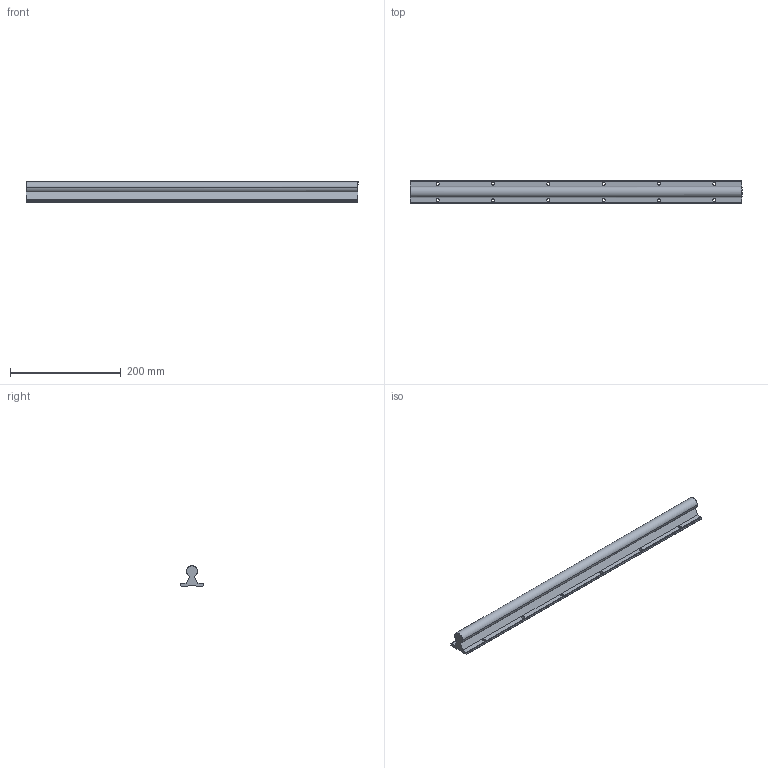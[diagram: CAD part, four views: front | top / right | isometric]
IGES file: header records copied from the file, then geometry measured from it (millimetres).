
Global section: file name: No Iges File Name specified; native system: AutoDesk Inventor R10; preprocessor: AutoDesk Inventor Iges Exporter R10; author: No Author specified; organization: No Organization specified; date: 20101221.090703; units: millimetre
Bounding box: 600 x 40 x 37 mm (x, y, z)
Surface area: 93831.4 mm2 (no closed solid volume)
Topology: 0 solids, 0 shells, 146 faces, 988 edges, 976 vertices
Faces by surface type: bspline 146
